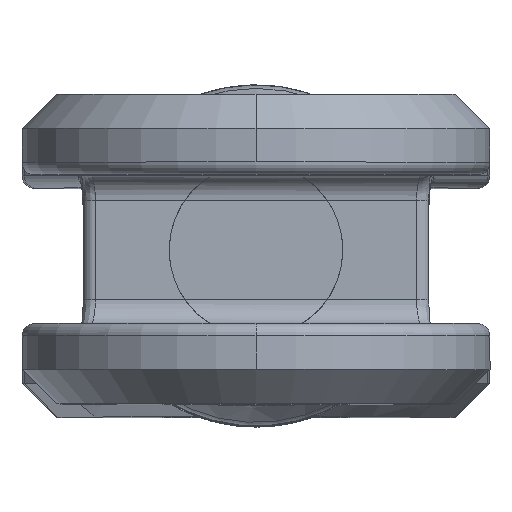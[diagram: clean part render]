
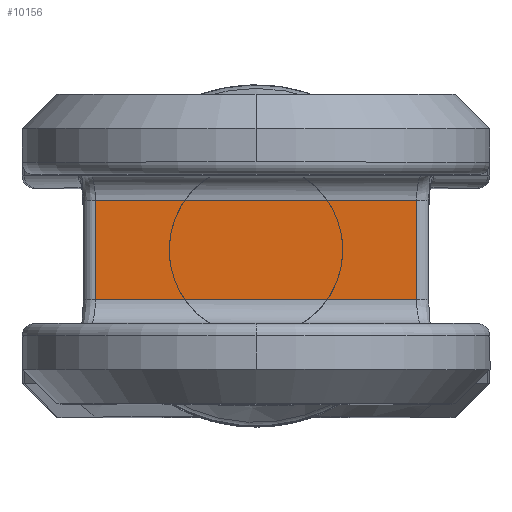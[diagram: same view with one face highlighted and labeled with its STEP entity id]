
A CAD part, top view. The second image highlights one B-rep face of the part: STEP entity #10156.
In plain terms, the highlighted planar face has unit normal (0, 0, 1) as drawn and (0, 0, -1) by its records, which use the part's own axes.
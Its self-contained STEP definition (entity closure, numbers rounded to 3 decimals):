
#521 = ORIENTED_EDGE ( 'NONE', *, *, #14158, .T. ) ;
#673 = FACE_OUTER_BOUND ( 'NONE', #13233, .T. ) ;
#887 = CARTESIAN_POINT ( 'NONE',  ( -45.584, -16., -117. ) ) ;
#2123 = DIRECTION ( 'NONE',  ( 0., 0., 1. ) ) ;
#2389 = VECTOR ( 'NONE', #15580, 1000. ) ;
#2447 = VERTEX_POINT ( 'NONE', #9543 ) ;
#2502 = CARTESIAN_POINT ( 'NONE',  ( -11.802, -16., -117. ) ) ;
#2556 = EDGE_CURVE ( 'NONE', #13262, #15344, #8550, .T. ) ;
#2764 = VERTEX_POINT ( 'NONE', #2502 ) ;
#3718 = VECTOR ( 'NONE', #14450, 1000. ) ;
#4069 = ORIENTED_EDGE ( 'NONE', *, *, #11939, .T. ) ;
#4747 = DIRECTION ( 'NONE',  ( 1., 0., 0. ) ) ;
#5060 = AXIS2_PLACEMENT_3D ( 'NONE', #887, #2123, #10602 ) ;
#6176 = EDGE_CURVE ( 'NONE', #2764, #2447, #14203, .T. ) ;
#7150 = ORIENTED_EDGE ( 'NONE', *, *, #6176, .F. ) ;
#7755 = VECTOR ( 'NONE', #9395, 1000. ) ;
#8174 = PLANE ( 'NONE',  #5060 ) ;
#8328 = CARTESIAN_POINT ( 'NONE',  ( -11.802, -16., -117. ) ) ;
#8463 = LINE ( 'NONE', #8328, #2389 ) ;
#8550 = LINE ( 'NONE', #10776, #11387 ) ;
#9395 = DIRECTION ( 'NONE',  ( 1., 0., 0. ) ) ;
#9543 = CARTESIAN_POINT ( 'NONE',  ( 91.802, -16., -117. ) ) ;
#10136 = LINE ( 'NONE', #13263, #3718 ) ;
#10156 = ADVANCED_FACE ( 'NONE', ( #673 ), #8174, .F. ) ;
#10602 = DIRECTION ( 'NONE',  ( 1., 0., 0. ) ) ;
#10776 = CARTESIAN_POINT ( 'NONE',  ( -45.584, 16., -117. ) ) ;
#10790 = CARTESIAN_POINT ( 'NONE',  ( 91.802, 16., -117. ) ) ;
#11387 = VECTOR ( 'NONE', #4747, 1000. ) ;
#11939 = EDGE_CURVE ( 'NONE', #15344, #2447, #10136, .T. ) ;
#12598 = CARTESIAN_POINT ( 'NONE',  ( -11.802, 16., -117. ) ) ;
#13026 = CARTESIAN_POINT ( 'NONE',  ( -45.584, -16., -117. ) ) ;
#13233 = EDGE_LOOP ( 'NONE', ( #7150, #521, #14715, #4069 ) ) ;
#13262 = VERTEX_POINT ( 'NONE', #12598 ) ;
#13263 = CARTESIAN_POINT ( 'NONE',  ( 91.802, -16., -117. ) ) ;
#14158 = EDGE_CURVE ( 'NONE', #2764, #13262, #8463, .T. ) ;
#14203 = LINE ( 'NONE', #13026, #7755 ) ;
#14450 = DIRECTION ( 'NONE',  ( 0., -1., 0. ) ) ;
#14715 = ORIENTED_EDGE ( 'NONE', *, *, #2556, .T. ) ;
#15344 = VERTEX_POINT ( 'NONE', #10790 ) ;
#15580 = DIRECTION ( 'NONE',  ( 0., 1., 0. ) ) ;
